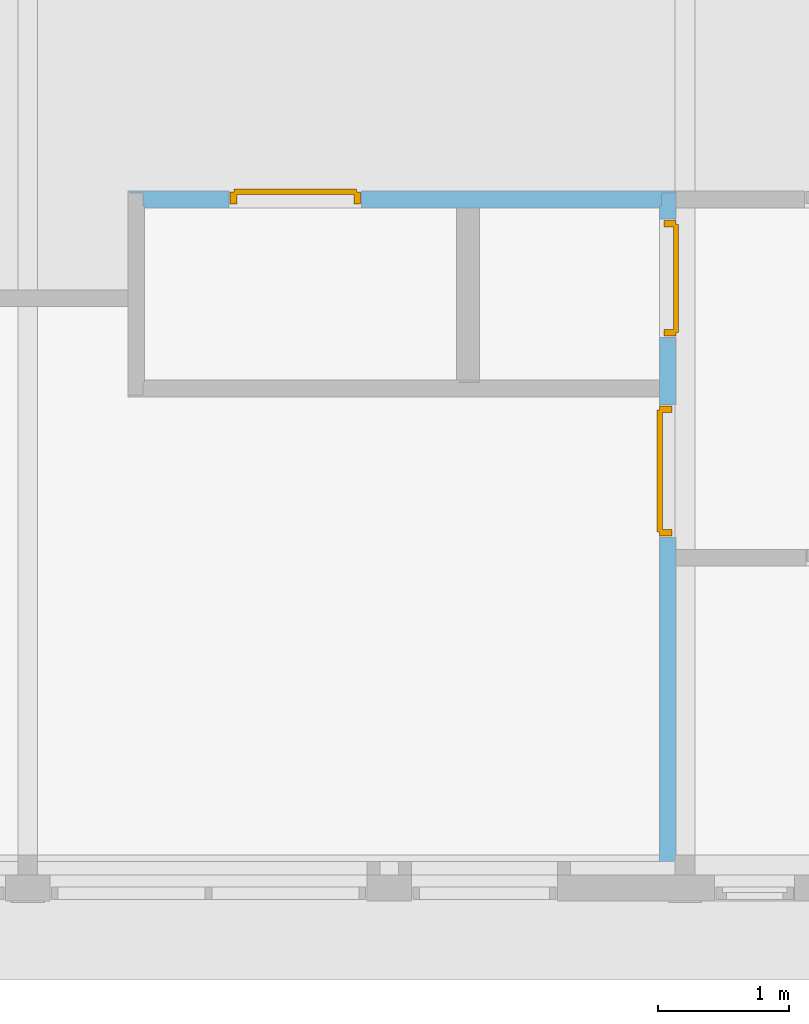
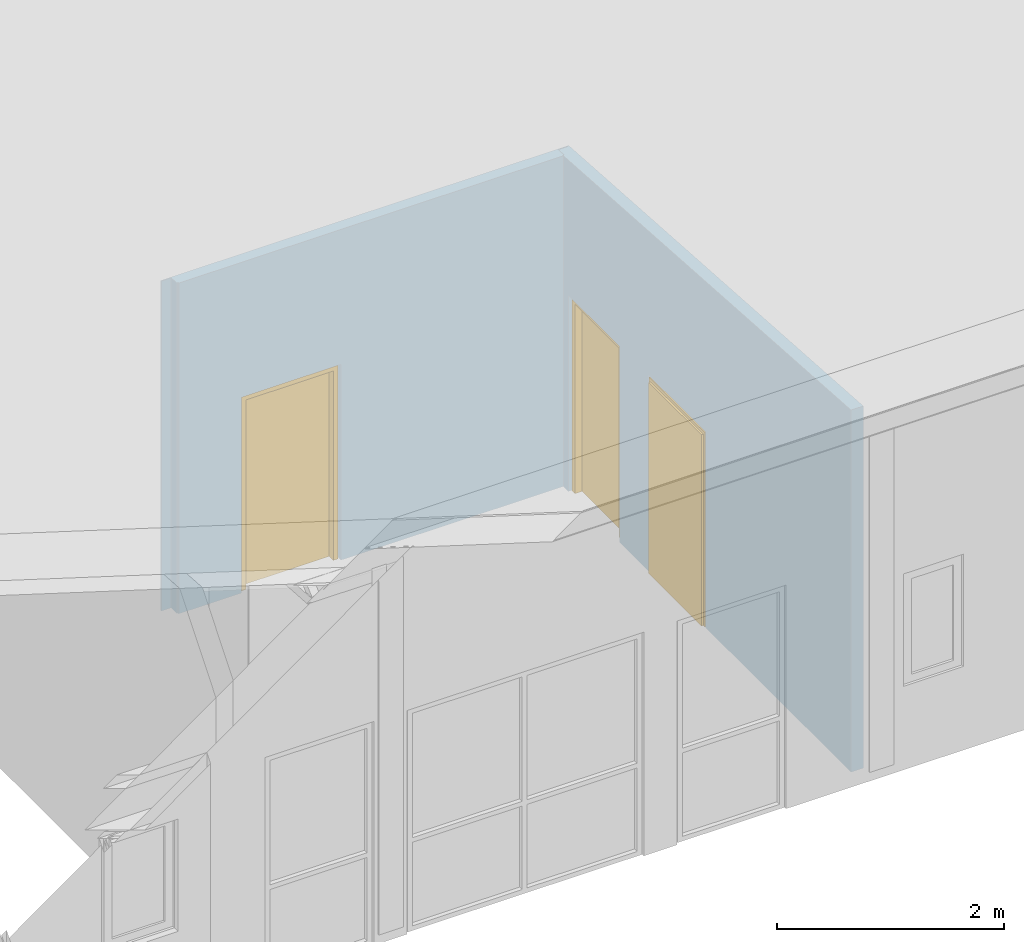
# One storey, part 23 of 37: 3 doors, 3 openings, plus 2 elements that do not belong to this part.
"""IFC2X3 building model written with IfcOpenShell, lengths in millimetres."""

import ifcopenshell
import ifcopenshell.guid

model = None  # the IFC model being written
_history = None  # IfcOwnerHistory: only IFC2X3 demands one
_inside = {}  # id of a spatial element -> (the spatial element, [elements in it])
_under = {}  # id of a project, library or spatial element -> (it, [spatial elements below it])
_declared = {}  # id of a project -> (the project, [libraries it declares])
_typed = {}  # id of a type object -> (the type object, [elements of that type])
_made_of = {}  # id of a material, layer set ... -> (it, [elements and type objects made of it])


def new_model(schema):
    """Start an empty IFC model of exactly this schema.

    Asked for "IFC4X3", IfcOpenShell would pick the latest addendum, in which some entities
    have other attributes; the version numbers below select the first issue.
    IFC2X3 requires an IfcOwnerHistory on every rooted entity: one is made here for all.
    """
    global model, _history
    if schema == "IFC4X3":
        model = ifcopenshell.file(schema_version=(4, 3, 0, 0))
    else:
        model = ifcopenshell.file(schema=schema)
    _inside.clear()
    _under.clear()
    _declared.clear()
    _typed.clear()
    _made_of.clear()
    _history = None
    if model.schema == "IFC2X3":
        org = make("IfcOrganization", Name="unknown")
        user = make(
            "IfcPersonAndOrganization",
            ThePerson=make("IfcPerson", FamilyName="unknown"),
            TheOrganization=org,
        )
        app = make(
            "IfcApplication",
            ApplicationDeveloper=org,
            Version="unknown",
            ApplicationFullName="unknown",
            ApplicationIdentifier="unknown",
        )
        _history = make(
            "IfcOwnerHistory",
            OwningUser=user,
            OwningApplication=app,
            ChangeAction="ADDED",
            CreationDate=0,
        )
    return model


def make(cls, **values):
    """One entity of the class cls with the attributes given. An attribute that is None is left unset."""
    return model.create_entity(
        cls, **{name: value for name, value in values.items() if value is not None}
    )


def entity(cls, *values):
    """Any entity or typed value of the class cls, its attributes in the order of the schema. None: left unset."""
    e = model.create_entity(cls)
    for i, value in enumerate(values):
        if value is not None:
            e[i] = value
    return e


def rooted(cls, **values):
    """An entity with a GlobalId (a new one), such as an element, a storey or a relation."""
    return make(cls, GlobalId=ifcopenshell.guid.new(), OwnerHistory=_history, **values)


def si_unit(unit_type, name, prefix=None):
    """IfcSIUnit, for example si_unit("LENGTHUNIT", "METRE", prefix="MILLI")."""
    return make("IfcSIUnit", UnitType=unit_type, Prefix=prefix, Name=name)


def converted_unit(unit_type, name, factor, base, dimensions=None, offset=None):
    """IfcConversionBasedUnit, such as the inch: factor (a typed value) times the base unit."""
    return make(
        "IfcConversionBasedUnit"
        if offset is None
        else "IfcConversionBasedUnitWithOffset",
        ConversionOffset=offset,
        Dimensions=None
        if dimensions is None
        else entity("IfcDimensionalExponents", *dimensions),
        UnitType=unit_type,
        Name=name,
        ConversionFactor=make(
            "IfcMeasureWithUnit", ValueComponent=factor, UnitComponent=base
        ),
    )


def assignment(units):
    """IfcUnitAssignment: the units of a project."""
    return None if units is None else make("IfcUnitAssignment", Units=units)


def point(xyz):
    """IfcCartesianPoint."""
    return None if xyz is None else make("IfcCartesianPoint", Coordinates=xyz)


def direction(xyz):
    """IfcDirection."""
    return None if xyz is None else make("IfcDirection", DirectionRatios=xyz)


def frame(location, z_axis=None, x_axis=None):
    """IfcAxis2Placement3D, a coordinate frame: its origin and axes. An axis left out is left unset."""
    return make(
        "IfcAxis2Placement3D",
        Location=point(location),
        Axis=direction(z_axis),
        RefDirection=direction(x_axis),
    )


def frame_2d(location, x_axis=None):
    """IfcAxis2Placement2D, a coordinate frame in the plane: its origin and x axis."""
    return make(
        "IfcAxis2Placement2D", Location=point(location), RefDirection=direction(x_axis)
    )


def origin():
    """The frame at (0, 0, 0) with its axes left unset."""
    return frame((0.0, 0.0, 0.0))


def origin_with_axes():
    """The frame at (0, 0, 0) with the z axis (0, 0, 1) and the x axis (1, 0, 0) written out."""
    return frame((0.0, 0.0, 0.0), z_axis=(0.0, 0.0, 1.0), x_axis=(1.0, 0.0, 0.0))


def place(relative_to, where):
    """IfcLocalPlacement: puts the frame where relative to a parent placement (None: the world)."""
    return make(
        "IfcLocalPlacement", PlacementRelTo=relative_to, RelativePlacement=where
    )


def context(
    kind, dimensions, precision=None, world=None, true_north=None, identifier=None
):
    """IfcGeometricRepresentationContext, for example the 3D "Model" context."""
    return make(
        "IfcGeometricRepresentationContext",
        ContextIdentifier=identifier,
        ContextType=kind,
        CoordinateSpaceDimension=dimensions,
        Precision=precision,
        WorldCoordinateSystem=world,
        TrueNorth=true_north,
    )


def subcontext(parent, identifier, kind, view, scale=None):
    """IfcGeometricRepresentationSubContext, for example "Body" below "Model"."""
    return make(
        "IfcGeometricRepresentationSubContext",
        ContextIdentifier=identifier,
        ContextType=kind,
        ParentContext=parent,
        TargetScale=scale,
        TargetView=view,
    )


def project(units=None, contexts=None):
    """IfcProject with its units and contexts."""
    return rooted(
        "IfcProject",
        Name="project",
        RepresentationContexts=contexts,
        UnitsInContext=assignment(units),
    )


def spatial(cls, under=None, at=None, **own):
    """A site, building, storey or space (cls), placed at a placement, below another one or the project."""
    s = rooted(cls, ObjectPlacement=at, **own)
    if under is not None:
        _under.setdefault(under.id(), (under, []))[1].append(s)
    return s


def polyline(points):
    """IfcPolyline through the points."""
    return make("IfcPolyline", Points=[point(p) for p in points])


def profile(cls, at=None, kind="AREA", **sizes):
    """A parametric profile (cls). Its sizes go by their IFC names, for example OverallWidth=200.0."""
    return make(cls, ProfileType=kind, Position=at, **sizes)


def rectangle(**sizes):
    """IfcRectangleProfileDef."""
    return profile("IfcRectangleProfileDef", **sizes)


def outline(outer, holes=None, kind="AREA"):
    """IfcArbitraryClosedProfileDef: a profile drawn as a closed curve; with holes, ...WithVoids."""
    if holes is None:
        return make("IfcArbitraryClosedProfileDef", ProfileType=kind, OuterCurve=outer)
    return make(
        "IfcArbitraryProfileDefWithVoids",
        ProfileType=kind,
        OuterCurve=outer,
        InnerCurves=holes,
    )


def extrude(swept, where, along, depth):
    """IfcExtrudedAreaSolid: the profile swept, set in the frame where, extruded along a direction by depth."""
    return make(
        "IfcExtrudedAreaSolid",
        SweptArea=swept,
        Position=where,
        ExtrudedDirection=direction(along),
        Depth=depth,
    )


def clip(a, b, op="DIFFERENCE"):
    """IfcBooleanClippingResult: the solid a cut by the half space b."""
    return make(
        "IfcBooleanClippingResult", Operator=op, FirstOperand=a, SecondOperand=b
    )


def halfspace(plane, agree):
    """IfcHalfSpaceSolid: all space on one side of the plane z = 0 of the frame plane."""
    return make(
        "IfcHalfSpaceSolid",
        BaseSurface=make("IfcPlane", Position=plane),
        AgreementFlag=agree,
    )


def bounded_halfspace(plane, agree, where, boundary):
    """IfcPolygonalBoundedHalfSpace: a half space limited to a polygon's prism."""
    return make(
        "IfcPolygonalBoundedHalfSpace",
        BaseSurface=make("IfcPlane", Position=plane),
        AgreementFlag=agree,
        Position=where,
        PolygonalBoundary=boundary,
    )


def faces_of(points, faces, orient=None, outer=None):
    """IfcFace entities. A face is a list of loops; a loop is a list of indices into points, from 0.

    orient and outer hold one flag for each loop. By default every Orientation is true, the
    first loop of a face is its IfcFaceOuterBound and the others are IfcFaceBound.
    """
    made = []
    for i, loops in enumerate(faces):
        bounds = []
        for j, loop in enumerate(loops):
            is_outer = j == 0 if outer is None else outer[i][j]
            bounds.append(
                make(
                    "IfcFaceOuterBound" if is_outer else "IfcFaceBound",
                    Bound=make("IfcPolyLoop", Polygon=[points[k] for k in loop]),
                    Orientation=True if orient is None else orient[i][j],
                )
            )
        made.append(make("IfcFace", Bounds=bounds))
    return made


def faceted_brep(points, faces, orient=None, outer=None, voids=None):
    """IfcFacetedBrep: a solid bounded by flat faces; with voids (closed shells), ...WithVoids."""
    shared = [point(p) for p in points]
    hull = make("IfcClosedShell", CfsFaces=faces_of(shared, faces, orient, outer))
    if voids is None:
        return make("IfcFacetedBrep", Outer=hull)
    return make(
        "IfcFacetedBrepWithVoids",
        Outer=hull,
        Voids=[
            make(cls, CfsFaces=faces_of(shared, fs, o, b)) for cls, fs, o, b in voids
        ],
    )


def shape(context_of_items, identifier, shape_type, items):
    """IfcShapeRepresentation: the items that make up one representation, for example the "Body"."""
    return make(
        "IfcShapeRepresentation",
        ContextOfItems=context_of_items,
        RepresentationIdentifier=identifier,
        RepresentationType=shape_type,
        Items=items,
    )


def material(Name=None, Category=None):
    """IfcMaterial."""
    return make("IfcMaterial", Name=Name, Category=Category)


def layer(
    of_material, thickness, ventilated=None, Name=None, Category=None, Priority=None
):
    """IfcMaterialLayer: one layer of a wall or slab, of a material (None: an air gap)."""
    return make(
        "IfcMaterialLayer",
        Material=of_material,
        LayerThickness=thickness,
        IsVentilated=ventilated,
        Name=Name,
        Category=Category,
        Priority=Priority,
    )


def layer_set(layers, Name=None):
    """IfcMaterialLayerSet."""
    return make("IfcMaterialLayerSet", MaterialLayers=layers, LayerSetName=Name)


def layer_usage(for_layer_set, set_direction, sense, offset, extent=None):
    """IfcMaterialLayerSetUsage: how a layer set lies in its element."""
    return make(
        "IfcMaterialLayerSetUsage",
        ForLayerSet=for_layer_set,
        LayerSetDirection=set_direction,
        DirectionSense=sense,
        OffsetFromReferenceLine=offset,
        ReferenceExtent=extent,
    )


def made_of(thing, what):
    """Note that an element or type object is made of a material, layer set ...; save() writes the relation."""
    if what is not None:
        _made_of.setdefault(what.id(), (what, []))[1].append(thing)
    return thing


def type_object(cls, material=None, **own):
    """A type object (cls), such as IfcWallType, which elements share."""
    return made_of(rooted(cls, **own), material)


def element(
    cls,
    number,
    at=None,
    inside=None,
    cuts=None,
    type_object=None,
    material=None,
    context=None,
    identifier="Body",
    shape_type=None,
    held_by="IfcProductDefinitionShape",
    body=None,
    shapes=None,
    **own,
):
    """One element of the class cls, such as IfcWall. Its Tag is "e" and its number.

    at: its placement. inside: the storey or other place that contains it. cuts: it is an
    opening in that element (IfcRelVoidsElement). A single representation is given by context,
    identifier, shape_type and body (its items); several are given by shapes. held_by: the class
    of the entity that holds the representations. save() writes the other relations.
    """
    e = rooted(cls, Tag="e%d" % number, ObjectPlacement=at, **own)
    if body is not None:
        shapes = [shape(context, identifier, shape_type, body)]
    if shapes is not None:
        e.Representation = make(held_by, Representations=shapes)
    if inside is not None:
        _inside.setdefault(inside.id(), (inside, []))[1].append(e)
    if cuts is not None:
        rooted(
            "IfcRelVoidsElement", RelatingBuildingElement=cuts, RelatedOpeningElement=e
        )
    if type_object is not None:
        _typed.setdefault(type_object.id(), (type_object, []))[1].append(e)
    return made_of(e, material)


def fill(opening, filler):
    """IfcRelFillsElement: the door or window that sits in an opening."""
    return rooted(
        "IfcRelFillsElement",
        RelatingOpeningElement=opening,
        RelatedBuildingElement=filler,
    )


def aggregate(whole, parts):
    """IfcRelAggregates: a whole, such as a stair, and the parts it consists of."""
    return rooted("IfcRelAggregates", RelatingObject=whole, RelatedObjects=parts)


def save(model, path):
    """Write the relations noted so far, then the file.

    IfcRelAggregates (storeys below a building ...), IfcRelContainedInSpatialStructure (elements
    in a storey), IfcRelDefinesByType, IfcRelAssociatesMaterial and IfcRelDeclares: one each for
    every whole, place, type object, material and project.
    """
    for whole, parts in _under.values():
        aggregate(whole, parts)
    for where, things in _inside.values():
        rooted(
            "IfcRelContainedInSpatialStructure",
            RelatedElements=things,
            RelatingStructure=where,
        )
    for kind, things in _typed.values():
        rooted("IfcRelDefinesByType", RelatedObjects=things, RelatingType=kind)
    for what, things in _made_of.values():
        rooted("IfcRelAssociatesMaterial", RelatedObjects=things, RelatingMaterial=what)
    for by, libraries in _declared.values():
        rooted("IfcRelDeclares", RelatingContext=by, RelatedDefinitions=libraries)
    model.write(path)


model = new_model("IFC2X3")

# Units and contexts
model_context = context("Model", 3, precision=1e-05, world=origin())
plan_context = context("Plan", 3, precision=1e-05, world=origin())
body_context = subcontext(model_context, "Body", "Model", "MODEL_VIEW")
ifc_project = project(units=[si_unit("LENGTHUNIT", "METRE", prefix="MILLI"), converted_unit("PLANEANGLEUNIT", "DEGREE", entity("IfcPlaneAngleMeasure", 0.0174532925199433), si_unit("PLANEANGLEUNIT", "RADIAN"), dimensions=[0, 0, 0, 0, 0, 0, 0]), si_unit("AREAUNIT", "SQUARE_METRE"), si_unit("VOLUMEUNIT", "CUBIC_METRE")], contexts=[model_context, plan_context])

# Building, storey
building_placement = place(None, origin())
building = spatial("IfcBuilding", under=ifc_project, at=building_placement, Name="HEKF Administrasjonbygg", CompositionType="ELEMENT")
storey_placement = place(building_placement, frame((0.0, 0.0, 9900.0), z_axis=(0.0, 0.0, 1.0), x_axis=(1.0, 0.0, 0.0)))
storey = spatial("IfcBuildingStorey", under=building, at=storey_placement, Name="Plan 2", CompositionType="ELEMENT", Elevation=9900.0)

# Wall, opening, door
ifc_material_1 = material(Name="gips")
ifc_layer_1 = layer(ifc_material_1, 13.0)
ifc_material_2 = material(Name="riegel stål 100")
ifc_layer_2 = layer(ifc_material_2, 100.0)
ifc_material_3 = material(Name="gips")
ifc_layer_3 = layer(ifc_material_3, 13.0)
ifc_layer_set_1 = layer_set([ifc_layer_1, ifc_layer_2, ifc_layer_3])
ifc_layer_usage_1 = layer_usage(ifc_layer_set_1, "AXIS2", "POSITIVE", 0.0)
wall_1_placement = place(storey_placement, frame((27077.53209661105, -6799.0, 0.0), z_axis=(0.0, 0.0, 1.0), x_axis=(-1.0, 0.0, 0.0)))
wall_1 = element("IfcWallStandardCase", 1, at=wall_1_placement, inside=storey, material=ifc_layer_usage_1, context=body_context, shape_type="Clipping", body=[
    clip(clip(extrude(outline(polyline([(2257.614546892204, 13.0), (2157.614546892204, 13.0), (2157.614546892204, 0.0), (6301.532096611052, 0.0), (6301.532096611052, 13.0), (6201.532096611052, 13.0), (6201.532096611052, 113.0), (6188.532096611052, 113.0), (6188.532096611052, 126.0), (2270.614546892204, 126.0), (2270.614546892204, 113.0), (2257.614546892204, 113.0), (2257.614546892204, 13.0)])), origin_with_axes(), (0.0, 0.0, 1.0), 3561.666666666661), bounded_halfspace(frame((2157.614546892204, 0.0, 3553.266666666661), z_axis=(0.0, 0.06651901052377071, -0.9977851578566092), x_axis=(1.0, 0.0, 0.0)), True, origin(), polyline([(2157.614546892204, 0.0), (6301.532096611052, 0.0), (6301.532096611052, 13.0), (6201.532096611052, 13.0), (6201.532096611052, 113.0), (6188.532096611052, 113.0), (6188.532096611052, 126.0), (2270.614546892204, 126.0), (2270.614546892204, 113.0), (2257.614546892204, 113.0), (2257.614546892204, 13.0), (2157.614546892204, 13.0), (2157.614546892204, 0.0)]))), bounded_halfspace(frame((0.0, 0.0, 3553.266666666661), z_axis=(0.0, 0.06651901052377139, -0.9977851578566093), x_axis=(1.0, 0.0, 0.0)), True, origin(), polyline([(0.0, 0.0), (2144.614546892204, 0.0), (2144.614546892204, 126.0), (-113.0, 126.0), (-113.0, 113.0), (-13.0, 113.0), (-13.0, 13.0), (0.0, 13.0), (0.0, 0.0)]))),
])
opening_1_placement = place(wall_1_placement, frame((4537.436605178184, 0.0, 0.0), z_axis=(0.0, 1.0, 0.0), x_axis=(0.0, 0.0, 1.0)))
opening_1 = element("IfcOpeningElement", 2, at=opening_1_placement, cuts=wall_1, Name="garasjeport med glassfelter:45x6", ObjectType="Opening", context=body_context, shape_type="SweptSolid", body=[
    extrude(rectangle(XDim=2110.0, YDim=1010.0, at=frame_2d((1055.0, 505.0), x_axis=(1.0, 0.0))), origin_with_axes(), (0.0, 0.0, 1.0), 126.0),
])
ifc_material_4 = material()
door_style_1 = type_object("IfcDoorStyle", Name="D115", ConstructionType="NOTDEFINED", OperationType="USERDEFINED", ParameterTakesPrecedence=False, Sizeable=False)
door_1_placement = place(opening_1_placement, frame((0.0, 0.0, 0.0), z_axis=(1.0, 0.0, 0.0), x_axis=(0.0, 1.0, 0.0)))
door_1 = element("IfcDoor", 3, at=door_1_placement, inside=storey, type_object=door_style_1, material=ifc_material_4, Name="D115", OverallHeight=2110.0, OverallWidth=1010.0, context=body_context, shape_type="Brep", body=[
    faceted_brep([(1000.0, 3.999999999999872, 2090.0), (1000.0, 4.0, -2.816687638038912e-15), (950.0, 4.0, -2.816687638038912e-15), (950.0, 3.999999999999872, 2090.0), (1000.0, 96.0, 2.816687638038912e-15), (1000.0, 95.99999999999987, 2090.0), (950.0, 95.99999999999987, 2090.0), (950.0, 96.0, 2.816687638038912e-15), (1000.0, 4.0, -2.816687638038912e-15), (1000.0, 3.999999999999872, 2090.0), (1000.0, 95.99999999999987, 2090.0), (1000.0, 96.0, 2.816687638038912e-15), (950.0, 4.0, -2.816687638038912e-15), (1000.0, 4.0, -2.816687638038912e-15), (1000.0, 96.0, 2.816687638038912e-15), (950.0, 96.0, 2.816687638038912e-15), (950.0, 3.999999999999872, 2090.0), (950.0, 4.0, -2.816687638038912e-15), (950.0, 96.0, 2.816687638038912e-15), (950.0, 95.99999999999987, 2090.0), (1000.0, 3.999999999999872, 2090.0), (950.0, 3.999999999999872, 2090.0), (950.0, 95.99999999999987, 2090.0), (1000.0, 95.99999999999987, 2090.0)], [[[0, 1, 2, 3]], [[4, 5, 6, 7]], [[8, 9, 10, 11]], [[12, 13, 14, 15]], [[16, 17, 18, 19]], [[20, 21, 22, 23]]], orient=[[False], [False], [False], [False], [False], [False]]),
    faceted_brep([(60.0, 3.999999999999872, 2090.0), (60.0, 4.0, -2.816687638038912e-15), (10.0, 4.0, -2.816687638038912e-15), (10.0, 3.999999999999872, 2090.0), (60.0, 96.0, 2.816687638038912e-15), (60.0, 95.99999999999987, 2090.0), (10.0, 95.99999999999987, 2090.0), (10.0, 96.0, 2.816687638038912e-15), (60.0, 4.0, -2.816687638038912e-15), (60.0, 3.999999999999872, 2090.0), (60.0, 95.99999999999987, 2090.0), (60.0, 96.0, 2.816687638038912e-15), (10.0, 4.0, -2.816687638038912e-15), (60.0, 4.0, -2.816687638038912e-15), (60.0, 96.0, 2.816687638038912e-15), (10.0, 96.0, 2.816687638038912e-15), (10.0, 3.999999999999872, 2090.0), (10.0, 4.0, -2.816687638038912e-15), (10.0, 96.0, 2.816687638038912e-15), (10.0, 95.99999999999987, 2090.0), (60.0, 3.999999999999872, 2090.0), (10.0, 3.999999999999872, 2090.0), (10.0, 95.99999999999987, 2090.0), (60.0, 95.99999999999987, 2090.0)], [[[0, 1, 2, 3]], [[4, 5, 6, 7]], [[8, 9, 10, 11]], [[12, 13, 14, 15]], [[16, 17, 18, 19]], [[20, 21, 22, 23]]], orient=[[False], [False], [False], [False], [False], [False]]),
    faceted_brep([(950.0, 3.999999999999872, 2090.0), (950.0, 3.999999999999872, 2040.0), (60.00000000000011, 3.999999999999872, 2040.0), (60.00000000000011, 3.999999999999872, 2090.0), (950.0, 95.99999999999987, 2040.0), (950.0, 95.99999999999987, 2090.0), (60.00000000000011, 95.99999999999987, 2090.0), (60.00000000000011, 95.99999999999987, 2040.0), (950.0, 3.999999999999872, 2040.0), (950.0, 3.999999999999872, 2090.0), (950.0, 95.99999999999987, 2090.0), (950.0, 95.99999999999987, 2040.0), (60.00000000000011, 3.999999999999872, 2040.0), (950.0, 3.999999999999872, 2040.0), (950.0, 95.99999999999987, 2040.0), (60.00000000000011, 95.99999999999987, 2040.0), (60.00000000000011, 3.999999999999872, 2090.0), (60.00000000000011, 3.999999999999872, 2040.0), (60.00000000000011, 95.99999999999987, 2040.0), (60.00000000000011, 95.99999999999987, 2090.0), (950.0, 3.999999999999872, 2090.0), (60.00000000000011, 3.999999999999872, 2090.0), (60.00000000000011, 95.99999999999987, 2090.0), (950.0, 95.99999999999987, 2090.0)], [[[0, 1, 2, 3]], [[4, 5, 6, 7]], [[8, 9, 10, 11]], [[12, 13, 14, 15]], [[16, 17, 18, 19]], [[20, 21, 22, 23]]], orient=[[False], [False], [False], [False], [False], [False]]),
    faceted_brep([(970.0, -16.00000000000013, 2060.0), (970.0, -16.0, -4.041334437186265e-15), (40.00000000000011, -16.0, -4.041334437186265e-15), (40.00000000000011, -16.00000000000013, 2060.0), (970.0, 24.0, -1.592040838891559e-15), (970.0, 23.99999999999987, 2060.0), (40.00000000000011, 23.99999999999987, 2060.0), (40.00000000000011, 24.0, -1.592040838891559e-15), (970.0, -16.0, -4.041334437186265e-15), (970.0, -16.00000000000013, 2060.0), (970.0, 23.99999999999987, 2060.0), (970.0, 24.0, -1.592040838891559e-15), (40.00000000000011, -16.0, -4.041334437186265e-15), (970.0, -16.0, -4.041334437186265e-15), (970.0, 24.0, -1.592040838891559e-15), (40.00000000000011, 24.0, -1.592040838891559e-15), (40.00000000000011, -16.00000000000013, 2060.0), (40.00000000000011, -16.0, -4.041334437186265e-15), (40.00000000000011, 24.0, -1.592040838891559e-15), (40.00000000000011, 23.99999999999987, 2060.0), (970.0, -16.00000000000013, 2060.0), (40.00000000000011, -16.00000000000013, 2060.0), (40.00000000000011, 23.99999999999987, 2060.0), (970.0, 23.99999999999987, 2060.0)], [[[0, 1, 2, 3]], [[4, 5, 6, 7]], [[8, 9, 10, 11]], [[12, 13, 14, 15]], [[16, 17, 18, 19]], [[20, 21, 22, 23]]], orient=[[False], [False], [False], [False], [False], [False]]),
])
fill(opening_1, door_1)

# Wall, openings, doors
ifc_material_5 = material(Name="gips")
ifc_layer_4 = layer(ifc_material_5, 13.0)
ifc_material_6 = material(Name="riegel stål 100")
ifc_layer_5 = layer(ifc_material_6, 100.0)
ifc_material_7 = material(Name="gips")
ifc_layer_6 = layer(ifc_material_7, 13.0)
ifc_layer_set_2 = layer_set([ifc_layer_4, ifc_layer_5, ifc_layer_6])
ifc_layer_usage_2 = layer_usage(ifc_layer_set_2, "AXIS2", "POSITIVE", 0.0)
wall_2_placement = place(storey_placement, frame((24932.91754971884, -12000.0, 0.0), z_axis=(0.0, 0.0, 1.0), x_axis=(0.0, 1.0, 0.0)))
wall_2 = element("IfcWallStandardCase", 4, at=wall_2_placement, inside=storey, material=ifc_layer_usage_2, context=body_context, shape_type="Clipping", body=[
    clip(extrude(outline(polyline([(0.0, 0.0), (5201.000000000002, 0.0), (5201.000000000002, 13.0), (5188.000000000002, 13.0), (5188.000000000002, 113.0), (5088.000000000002, 113.0), (5088.000000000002, 126.0), (0.0, 126.0), (0.0, 0.0)])), origin_with_axes(), (0.0, 0.0, 1.0), 3899.999999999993), halfspace(frame((0.0, 0.0, 3899.999999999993), z_axis=(-0.06651901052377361, -1.968941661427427e-15, -0.9977851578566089), x_axis=(0.997785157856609, 0.0, -0.06651901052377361)), True)),
])
opening_2_placement = place(wall_2_placement, frame((4088.000000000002, 0.0, 0.0), z_axis=(0.0, 1.0, 0.0), x_axis=(0.0, 0.0, 1.0)))
opening_2 = element("IfcOpeningElement", 5, at=opening_2_placement, cuts=wall_2, Name="Door opening", ObjectType="Opening", context=body_context, shape_type="SweptSolid", body=[
    extrude(rectangle(XDim=2110.0, YDim=900.0, at=frame_2d((1055.0, 450.0), x_axis=(1.0, 0.0))), origin_with_axes(), (0.0, 0.0, 1.0), 126.0),
])
opening_3_placement = place(wall_2_placement, frame((2567.829342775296, 0.0, 0.0), z_axis=(0.0, 1.0, 0.0), x_axis=(0.0, 0.0, 1.0)))
opening_3 = element("IfcOpeningElement", 6, at=opening_3_placement, cuts=wall_2, Name="garasjeport med glassfelter:45x6", ObjectType="Opening", context=body_context, shape_type="SweptSolid", body=[
    extrude(rectangle(XDim=2110.0, YDim=1010.0, at=frame_2d((1055.0, 505.0), x_axis=(1.0, 0.0))), origin_with_axes(), (0.0, 0.0, 1.0), 126.0),
])
ifc_material_8 = material()
door_style_2 = type_object("IfcDoorStyle", Name="D104", ConstructionType="NOTDEFINED", OperationType="USERDEFINED", ParameterTakesPrecedence=False, Sizeable=False)
door_2_placement = place(opening_2_placement, frame((0.0, 0.0, 0.0), z_axis=(1.0, 0.0, 0.0), x_axis=(0.0, 1.0, 0.0)))
door_2 = element("IfcDoor", 7, at=door_2_placement, inside=storey, type_object=door_style_2, material=ifc_material_8, Name="D104", OverallHeight=2110.0, OverallWidth=900.0, context=body_context, shape_type="Brep", body=[
    faceted_brep([(890.0, 0.9999999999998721, 2090.0), (890.0, 1.0, -2.816687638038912e-15), (840.0, 1.000000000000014, -2.816687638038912e-15), (840.0, 0.9999999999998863, 2090.0), (890.0, 93.0, 2.816687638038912e-15), (890.0, 92.99999999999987, 2090.0), (840.0, 92.99999999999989, 2090.0), (840.0, 93.00000000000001, 2.816687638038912e-15), (890.0, 1.0, -2.816687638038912e-15), (890.0, 0.9999999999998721, 2090.0), (890.0, 92.99999999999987, 2090.0), (890.0, 93.0, 2.816687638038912e-15), (840.0, 1.000000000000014, -2.816687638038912e-15), (890.0, 1.0, -2.816687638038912e-15), (890.0, 93.0, 2.816687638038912e-15), (840.0, 93.00000000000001, 2.816687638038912e-15), (840.0, 0.9999999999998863, 2090.0), (840.0, 1.000000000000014, -2.816687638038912e-15), (840.0, 93.00000000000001, 2.816687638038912e-15), (840.0, 92.99999999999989, 2090.0), (890.0, 0.9999999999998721, 2090.0), (840.0, 0.9999999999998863, 2090.0), (840.0, 92.99999999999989, 2090.0), (890.0, 92.99999999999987, 2090.0)], [[[0, 1, 2, 3]], [[4, 5, 6, 7]], [[8, 9, 10, 11]], [[12, 13, 14, 15]], [[16, 17, 18, 19]], [[20, 21, 22, 23]]], orient=[[False], [False], [False], [False], [False], [False]]),
    faceted_brep([(60.0, 1.000000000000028, 2090.0), (60.0, 1.000000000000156, -2.816687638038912e-15), (10.0, 1.000000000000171, -2.816687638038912e-15), (10.0, 1.000000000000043, 2090.0), (60.0, 93.00000000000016, 2.816687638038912e-15), (60.0, 93.00000000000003, 2090.0), (10.0, 93.00000000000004, 2090.0), (10.0, 93.00000000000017, 2.816687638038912e-15), (60.0, 1.000000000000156, -2.816687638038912e-15), (60.0, 1.000000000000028, 2090.0), (60.0, 93.00000000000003, 2090.0), (60.0, 93.00000000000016, 2.816687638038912e-15), (10.0, 1.000000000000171, -2.816687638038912e-15), (60.0, 1.000000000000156, -2.816687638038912e-15), (60.0, 93.00000000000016, 2.816687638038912e-15), (10.0, 93.00000000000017, 2.816687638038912e-15), (10.0, 1.000000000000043, 2090.0), (10.0, 1.000000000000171, -2.816687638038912e-15), (10.0, 93.00000000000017, 2.816687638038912e-15), (10.0, 93.00000000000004, 2090.0), (60.0, 1.000000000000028, 2090.0), (10.0, 1.000000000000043, 2090.0), (10.0, 93.00000000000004, 2090.0), (60.0, 93.00000000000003, 2090.0)], [[[0, 1, 2, 3]], [[4, 5, 6, 7]], [[8, 9, 10, 11]], [[12, 13, 14, 15]], [[16, 17, 18, 19]], [[20, 21, 22, 23]]], orient=[[False], [False], [False], [False], [False], [False]]),
    faceted_brep([(840.0, 0.9999999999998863, 2090.0), (840.0, 0.9999999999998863, 2040.0), (60.00000000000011, 1.000000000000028, 2040.0), (60.00000000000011, 1.000000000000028, 2090.0), (840.0, 92.99999999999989, 2040.0), (840.0, 92.99999999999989, 2090.0), (60.00000000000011, 93.00000000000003, 2090.0), (60.00000000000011, 93.00000000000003, 2040.0), (840.0, 0.9999999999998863, 2040.0), (840.0, 0.9999999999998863, 2090.0), (840.0, 92.99999999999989, 2090.0), (840.0, 92.99999999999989, 2040.0), (60.00000000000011, 1.000000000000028, 2040.0), (840.0, 0.9999999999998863, 2040.0), (840.0, 92.99999999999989, 2040.0), (60.00000000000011, 93.00000000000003, 2040.0), (60.00000000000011, 1.000000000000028, 2090.0), (60.00000000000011, 1.000000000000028, 2040.0), (60.00000000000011, 93.00000000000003, 2040.0), (60.00000000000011, 93.00000000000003, 2090.0), (840.0, 0.9999999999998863, 2090.0), (60.00000000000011, 1.000000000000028, 2090.0), (60.00000000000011, 93.00000000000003, 2090.0), (840.0, 92.99999999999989, 2090.0)], [[[0, 1, 2, 3]], [[4, 5, 6, 7]], [[8, 9, 10, 11]], [[12, 13, 14, 15]], [[16, 17, 18, 19]], [[20, 21, 22, 23]]], orient=[[False], [False], [False], [False], [False], [False]]),
    faceted_brep([(860.0, -19.00000000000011, 2060.0), (860.0, -18.99999999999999, -4.041334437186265e-15), (40.0, -18.99999999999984, -4.041334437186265e-15), (40.0, -18.99999999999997, 2060.0), (860.0, 21.00000000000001, -1.592040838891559e-15), (860.0, 20.99999999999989, 2060.0), (40.0, 21.00000000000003, 2060.0), (40.0, 21.00000000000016, -1.592040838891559e-15), (860.0, -18.99999999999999, -4.041334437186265e-15), (860.0, -19.00000000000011, 2060.0), (860.0, 20.99999999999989, 2060.0), (860.0, 21.00000000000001, -1.592040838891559e-15), (40.0, -18.99999999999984, -4.041334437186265e-15), (860.0, -18.99999999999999, -4.041334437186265e-15), (860.0, 21.00000000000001, -1.592040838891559e-15), (40.0, 21.00000000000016, -1.592040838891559e-15), (40.0, -18.99999999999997, 2060.0), (40.0, -18.99999999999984, -4.041334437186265e-15), (40.0, 21.00000000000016, -1.592040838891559e-15), (40.0, 21.00000000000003, 2060.0), (860.0, -19.00000000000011, 2060.0), (40.0, -18.99999999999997, 2060.0), (40.0, 21.00000000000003, 2060.0), (860.0, 20.99999999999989, 2060.0)], [[[0, 1, 2, 3]], [[4, 5, 6, 7]], [[8, 9, 10, 11]], [[12, 13, 14, 15]], [[16, 17, 18, 19]], [[20, 21, 22, 23]]], orient=[[False], [False], [False], [False], [False], [False]]),
])
fill(opening_2, door_2)
ifc_material_9 = material()
door_style_3 = type_object("IfcDoorStyle", Name="D103", ConstructionType="NOTDEFINED", OperationType="USERDEFINED", ParameterTakesPrecedence=False, Sizeable=False)
door_3_placement = place(opening_3_placement, frame((0.0, 0.0, 0.0), z_axis=(1.0, 0.0, 0.0), x_axis=(0.0, 1.0, 0.0)))
door_3 = element("IfcDoor", 8, at=door_3_placement, inside=storey, type_object=door_style_3, material=ifc_material_9, Name="D103", OverallHeight=2110.0, OverallWidth=1010.0, context=body_context, shape_type="Brep", body=[
    faceted_brep([(1000.0, 125.0000000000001, 2090.0), (950.0, 125.0000000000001, 2090.0), (950.0, 125.0, -2.816687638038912e-15), (1000.0, 125.0, -2.816687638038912e-15), (1000.0, 33.0, 2.816687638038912e-15), (950.0, 33.00000000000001, 2.816687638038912e-15), (950.0, 33.00000000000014, 2090.0), (1000.0, 33.00000000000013, 2090.0), (1000.0, 125.0, -2.816687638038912e-15), (1000.0, 33.0, 2.816687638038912e-15), (1000.0, 33.00000000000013, 2090.0), (1000.0, 125.0000000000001, 2090.0), (950.0, 125.0, -2.816687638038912e-15), (950.0, 33.00000000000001, 2.816687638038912e-15), (1000.0, 33.0, 2.816687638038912e-15), (1000.0, 125.0, -2.816687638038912e-15), (950.0, 125.0000000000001, 2090.0), (950.0, 33.00000000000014, 2090.0), (950.0, 33.00000000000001, 2.816687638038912e-15), (950.0, 125.0, -2.816687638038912e-15), (1000.0, 125.0000000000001, 2090.0), (1000.0, 33.00000000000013, 2090.0), (950.0, 33.00000000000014, 2090.0), (950.0, 125.0000000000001, 2090.0)], [[[0, 1, 2, 3]], [[4, 5, 6, 7]], [[8, 9, 10, 11]], [[12, 13, 14, 15]], [[16, 17, 18, 19]], [[20, 21, 22, 23]]], orient=[[False], [False], [False], [False], [False], [False]]),
    faceted_brep([(60.0, 125.0000000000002, 2090.0), (10.0, 125.0000000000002, 2090.0), (10.0, 125.0000000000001, -2.816687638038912e-15), (60.0, 125.0000000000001, -2.816687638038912e-15), (60.0, 33.00000000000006, 2.816687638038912e-15), (10.0, 33.00000000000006, 2.816687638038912e-15), (10.0, 33.00000000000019, 2090.0), (60.0, 33.00000000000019, 2090.0), (60.0, 125.0000000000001, -2.816687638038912e-15), (60.0, 33.00000000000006, 2.816687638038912e-15), (60.0, 33.00000000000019, 2090.0), (60.0, 125.0000000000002, 2090.0), (10.0, 125.0000000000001, -2.816687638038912e-15), (10.0, 33.00000000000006, 2.816687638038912e-15), (60.0, 33.00000000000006, 2.816687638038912e-15), (60.0, 125.0000000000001, -2.816687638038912e-15), (10.0, 125.0000000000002, 2090.0), (10.0, 33.00000000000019, 2090.0), (10.0, 33.00000000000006, 2.816687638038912e-15), (10.0, 125.0000000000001, -2.816687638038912e-15), (60.0, 125.0000000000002, 2090.0), (60.0, 33.00000000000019, 2090.0), (10.0, 33.00000000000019, 2090.0), (10.0, 125.0000000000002, 2090.0)], [[[0, 1, 2, 3]], [[4, 5, 6, 7]], [[8, 9, 10, 11]], [[12, 13, 14, 15]], [[16, 17, 18, 19]], [[20, 21, 22, 23]]], orient=[[False], [False], [False], [False], [False], [False]]),
    faceted_brep([(950.0, 125.0000000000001, 2090.0), (60.00000000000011, 125.0000000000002, 2090.0), (60.00000000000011, 125.0000000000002, 2040.0), (950.0, 125.0000000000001, 2040.0), (950.0, 33.00000000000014, 2040.0), (60.00000000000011, 33.00000000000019, 2040.0), (60.00000000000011, 33.00000000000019, 2090.0), (950.0, 33.00000000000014, 2090.0), (950.0, 125.0000000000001, 2040.0), (950.0, 33.00000000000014, 2040.0), (950.0, 33.00000000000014, 2090.0), (950.0, 125.0000000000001, 2090.0), (60.00000000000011, 125.0000000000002, 2040.0), (60.00000000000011, 33.00000000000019, 2040.0), (950.0, 33.00000000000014, 2040.0), (950.0, 125.0000000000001, 2040.0), (60.00000000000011, 125.0000000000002, 2090.0), (60.00000000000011, 33.00000000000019, 2090.0), (60.00000000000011, 33.00000000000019, 2040.0), (60.00000000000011, 125.0000000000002, 2040.0), (950.0, 125.0000000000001, 2090.0), (950.0, 33.00000000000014, 2090.0), (60.00000000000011, 33.00000000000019, 2090.0), (60.00000000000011, 125.0000000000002, 2090.0)], [[[0, 1, 2, 3]], [[4, 5, 6, 7]], [[8, 9, 10, 11]], [[12, 13, 14, 15]], [[16, 17, 18, 19]], [[20, 21, 22, 23]]], orient=[[False], [False], [False], [False], [False], [False]]),
    faceted_brep([(970.0, 145.0000000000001, 2060.0), (40.00000000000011, 145.0000000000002, 2060.0), (40.00000000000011, 145.0000000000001, -4.041334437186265e-15), (970.0, 145.0, -4.041334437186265e-15), (970.0, 105.0, -1.592040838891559e-15), (40.00000000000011, 105.0000000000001, -1.592040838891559e-15), (40.00000000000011, 105.0000000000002, 2060.0), (970.0, 105.0000000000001, 2060.0), (970.0, 145.0, -4.041334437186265e-15), (970.0, 105.0, -1.592040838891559e-15), (970.0, 105.0000000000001, 2060.0), (970.0, 145.0000000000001, 2060.0), (40.00000000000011, 145.0000000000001, -4.041334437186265e-15), (40.00000000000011, 105.0000000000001, -1.592040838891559e-15), (970.0, 105.0, -1.592040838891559e-15), (970.0, 145.0, -4.041334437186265e-15), (40.00000000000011, 145.0000000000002, 2060.0), (40.00000000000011, 105.0000000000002, 2060.0), (40.00000000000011, 105.0000000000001, -1.592040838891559e-15), (40.00000000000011, 145.0000000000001, -4.041334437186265e-15), (970.0, 145.0000000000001, 2060.0), (970.0, 105.0000000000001, 2060.0), (40.00000000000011, 105.0000000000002, 2060.0), (40.00000000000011, 145.0000000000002, 2060.0)], [[[0, 1, 2, 3]], [[4, 5, 6, 7]], [[8, 9, 10, 11]], [[12, 13, 14, 15]], [[16, 17, 18, 19]], [[20, 21, 22, 23]]], orient=[[False], [False], [False], [False], [False], [False]]),
])
fill(opening_3, door_3)

save(model, "model.ifc")
